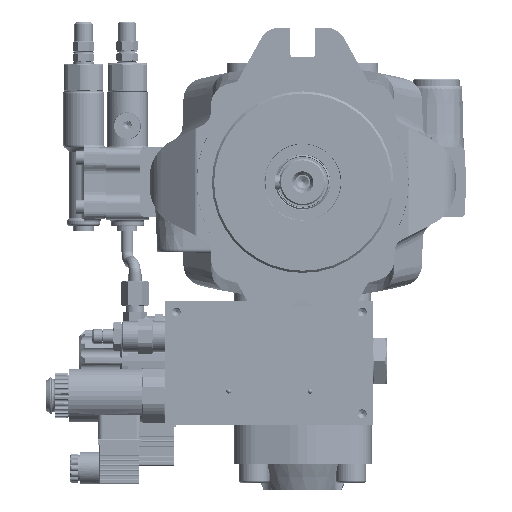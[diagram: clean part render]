
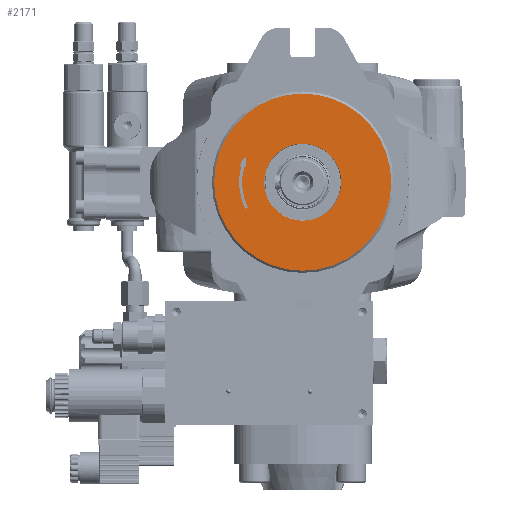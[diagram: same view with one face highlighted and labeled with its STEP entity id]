
A CAD part, left-side view. The second image highlights one B-rep face of the part: STEP entity #2171.
In plain terms, the highlighted planar face has unit normal (-1, 0, 0).
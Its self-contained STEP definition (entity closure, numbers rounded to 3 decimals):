
#2171 = ADVANCED_FACE( '', ( #5556, #5557, #5558 ), #5559, .F. );
#5556 = FACE_OUTER_BOUND( '', #13385, .T. );
#5557 = FACE_BOUND( '', #13386, .T. );
#5558 = FACE_BOUND( '', #13387, .T. );
#5559 = PLANE( '', #13388 );
#13385 = EDGE_LOOP( '', ( #24339 ) );
#13386 = EDGE_LOOP( '', ( #24340, #24341, #24342, #24343, #24344, #24345, #24346 ) );
#13387 = EDGE_LOOP( '', ( #24347 ) );
#13388 = AXIS2_PLACEMENT_3D( '', #24348, #24349, #24350 );
#24339 = ORIENTED_EDGE( '', *, *, #50181, .F. );
#24340 = ORIENTED_EDGE( '', *, *, #50182, .T. );
#24341 = ORIENTED_EDGE( '', *, *, #50183, .F. );
#24342 = ORIENTED_EDGE( '', *, *, #50184, .T. );
#24343 = ORIENTED_EDGE( '', *, *, #50185, .T. );
#24344 = ORIENTED_EDGE( '', *, *, #50186, .T. );
#24345 = ORIENTED_EDGE( '', *, *, #50187, .T. );
#24346 = ORIENTED_EDGE( '', *, *, #50188, .F. );
#24347 = ORIENTED_EDGE( '', *, *, #50189, .T. );
#24348 = CARTESIAN_POINT( '', ( -9., 0., 0. ) );
#24349 = DIRECTION( '', ( 1., 0., 0. ) );
#24350 = DIRECTION( '', ( 0., 0., -1. ) );
#50181 = EDGE_CURVE( '', #58095, #58095, #58096, .T. );
#50182 = EDGE_CURVE( '', #58097, #58098, #58099, .T. );
#50183 = EDGE_CURVE( '', #58100, #58098, #58101, .T. );
#50184 = EDGE_CURVE( '', #58100, #58102, #58103, .T. );
#50185 = EDGE_CURVE( '', #58102, #58104, #58105, .T. );
#50186 = EDGE_CURVE( '', #58104, #58106, #58107, .T. );
#50187 = EDGE_CURVE( '', #58106, #58108, #58109, .T. );
#50188 = EDGE_CURVE( '', #58097, #58108, #58110, .T. );
#50189 = EDGE_CURVE( '', #58111, #58111, #58112, .T. );
#58095 = VERTEX_POINT( '', #71386 );
#58096 = CIRCLE( '', #71387, 61. );
#58097 = VERTEX_POINT( '', #71388 );
#58098 = VERTEX_POINT( '', #71389 );
#58099 = LINE( '', #71390, #71391 );
#58100 = VERTEX_POINT( '', #71392 );
#58101 = CIRCLE( '', #71393, 41.667 );
#58102 = VERTEX_POINT( '', #71394 );
#58103 = LINE( '', #71395, #71396 );
#58104 = VERTEX_POINT( '', #71397 );
#58105 = CIRCLE( '', #71398, 43.75 );
#58106 = VERTEX_POINT( '', #71399 );
#58107 = LINE( '', #71400, #71401 );
#58108 = VERTEX_POINT( '', #71402 );
#58109 = CIRCLE( '', #71403, 15. );
#58110 = CIRCLE( '', #71404, 30. );
#58111 = VERTEX_POINT( '', #71405 );
#58112 = CIRCLE( '', #71406, 26.539 );
#71386 = CARTESIAN_POINT( '', ( -9., 0., -61. ) );
#71387 = AXIS2_PLACEMENT_3D( '', #97923, #97924, #97925 );
#71388 = CARTESIAN_POINT( '', ( -9., 39.281, 10.525 ) );
#71389 = CARTESIAN_POINT( '', ( -9., 40.247, 10.784 ) );
#71390 = CARTESIAN_POINT( '', ( -9., 0., 0. ) );
#71391 = VECTOR( '', #97926, 1000. );
#71392 = CARTESIAN_POINT( '', ( -9., 37.763, -17.609 ) );
#71393 = AXIS2_PLACEMENT_3D( '', #97927, #97928, #97929 );
#71394 = CARTESIAN_POINT( '', ( -9., 39.651, -18.49 ) );
#71395 = CARTESIAN_POINT( '', ( -9., 0., 0. ) );
#71396 = VECTOR( '', #97930, 1000. );
#71397 = CARTESIAN_POINT( '', ( -9., 42.259, 11.323 ) );
#71398 = AXIS2_PLACEMENT_3D( '', #97931, #97932, #97933 );
#71399 = CARTESIAN_POINT( '', ( -9., 43.225, 11.582 ) );
#71400 = CARTESIAN_POINT( '', ( -9., 0., 0. ) );
#71401 = VECTOR( '', #97934, 1000. );
#71402 = CARTESIAN_POINT( '', ( -9., 38.707, 18.049 ) );
#71403 = AXIS2_PLACEMENT_3D( '', #97935, #97936, #97937 );
#71404 = AXIS2_PLACEMENT_3D( '', #97938, #97939, #97940 );
#71405 = CARTESIAN_POINT( '', ( -9., 0., -26.539 ) );
#71406 = AXIS2_PLACEMENT_3D( '', #97941, #97942, #97943 );
#97923 = CARTESIAN_POINT( '', ( -9., 0., 0. ) );
#97924 = DIRECTION( '', ( 1., 0., 0. ) );
#97925 = DIRECTION( '', ( 0., 0., -1. ) );
#97926 = DIRECTION( '', ( 0., 0.966, 0.259 ) );
#97927 = CARTESIAN_POINT( '', ( -9., 0., 0. ) );
#97928 = DIRECTION( '', ( 1., 0., 0. ) );
#97929 = DIRECTION( '', ( 0., 0., -1. ) );
#97930 = DIRECTION( '', ( 0., 0.906, -0.423 ) );
#97931 = CARTESIAN_POINT( '', ( -9., 0., 0. ) );
#97932 = DIRECTION( '', ( 1., 0., 0. ) );
#97933 = DIRECTION( '', ( 0., 0., -1. ) );
#97934 = DIRECTION( '', ( 0., 0.966, 0.259 ) );
#97935 = CARTESIAN_POINT( '', ( -9., 29.103, 6.527 ) );
#97936 = DIRECTION( '', ( 1., 0., 0. ) );
#97937 = DIRECTION( '', ( 0., 0., -1. ) );
#97938 = CARTESIAN_POINT( '', ( -9., 9.318, 12.023 ) );
#97939 = DIRECTION( '', ( 1., 0., 0. ) );
#97940 = DIRECTION( '', ( 0., 0., -1. ) );
#97941 = CARTESIAN_POINT( '', ( -9., 0., 0. ) );
#97942 = DIRECTION( '', ( 1., 0., 0. ) );
#97943 = DIRECTION( '', ( 0., 0., -1. ) );
